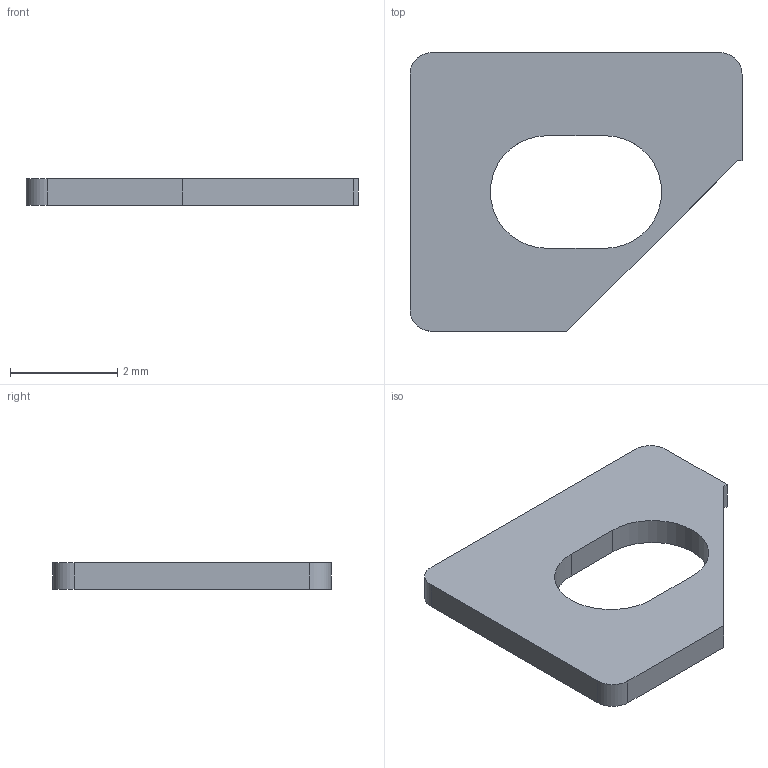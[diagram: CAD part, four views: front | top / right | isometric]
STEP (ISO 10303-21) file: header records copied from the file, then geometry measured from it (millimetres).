
FILE_DESCRIPTION(('Open CASCADE Model'),'2;1');
FILE_NAME('Open CASCADE Shape Model','2026-09-13T21:07:18',('Author'),( 'Open CASCADE'),'Open CASCADE STEP processor 7.9','Open CASCADE 7.9' ,'Unknown');
FILE_SCHEMA(('AUTOMOTIVE_DESIGN { 1 0 10303 214 1 1 1 1 }'));
Length unit declared in the file: millimetre
Products named in the file (1): Open CASCADE STEP translator 7.9 2
Bounding box: 6.2 x 5.2 x 0.5 mm (x, y, z)
Volume: 10.5 mm3; surface area: 56.7 mm2
Topology: 1 solids, 1 shells, 15 faces, 39 edges, 26 vertices
Faces by surface type: plane 10, cylinder 5
Entity records: 982 total; most frequent: CARTESIAN_POINT 215, DIRECTION 133, ORIENTED_EDGE 78, PCURVE 78, DEFINITIONAL_REPRESENTATION 78, LINE 77, VECTOR 77, EDGE_CURVE 39
